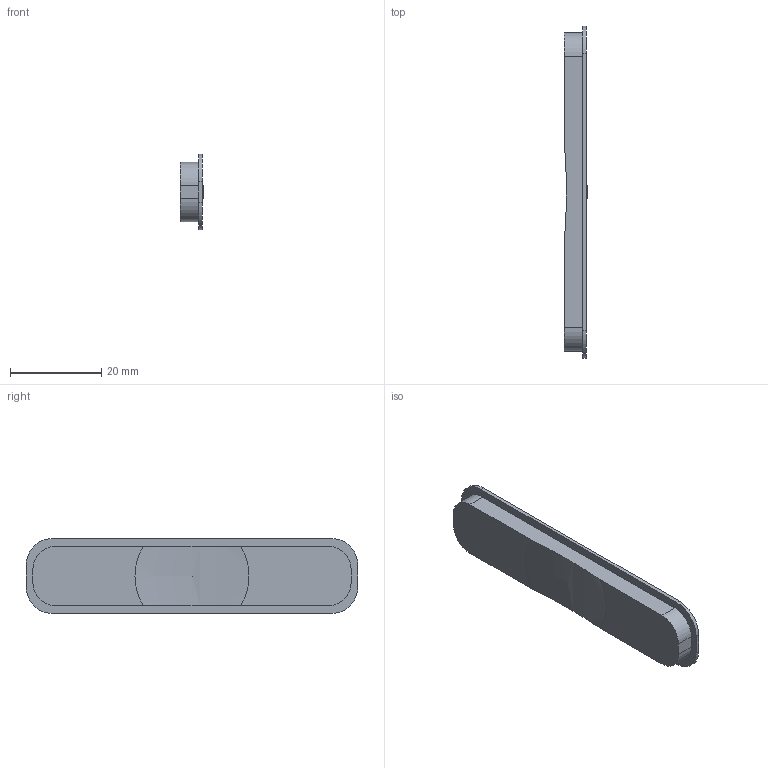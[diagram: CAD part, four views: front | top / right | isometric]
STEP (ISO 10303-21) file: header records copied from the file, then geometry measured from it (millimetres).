
FILE_DESCRIPTION(('Open CASCADE Model'),'2;1');
FILE_NAME('Open CASCADE Shape Model','2026-09-04T20:35:59',('Author'),( 'Open CASCADE'),'Open CASCADE STEP processor 7.7','Open CASCADE 7.7' ,'Unknown');
FILE_SCHEMA(('AUTOMOTIVE_DESIGN { 1 0 10303 214 1 1 1 1 }'));
Length unit declared in the file: millimetre
Products named in the file (1): Open CASCADE STEP translator 7.7 11
Bounding box: 5.1 x 72.6 x 16.5 mm (x, y, z)
Volume: 4353.2 mm3; surface area: 3085.8 mm2
Topology: 1 solids, 1 shells, 26 faces, 69 edges, 46 vertices
Faces by surface type: plane 17, cylinder 8, sphere 1
Entity records: 1853 total; most frequent: CARTESIAN_POINT 469, DIRECTION 265, LINE 159, VECTOR 159, ORIENTED_EDGE 136, PCURVE 136, DEFINITIONAL_REPRESENTATION 136, EDGE_CURVE 68
